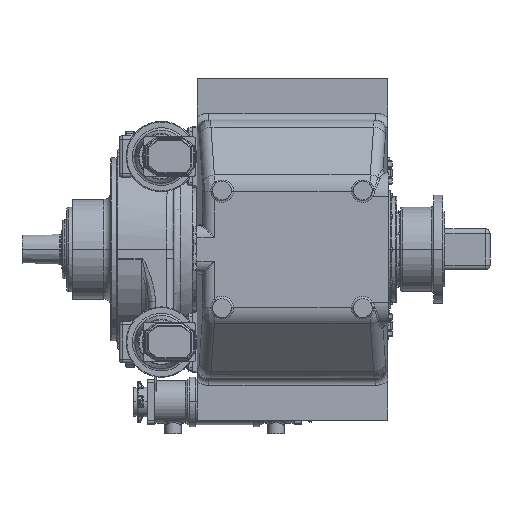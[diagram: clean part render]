
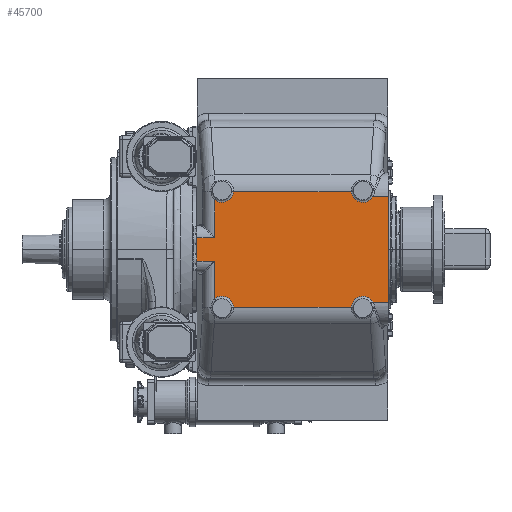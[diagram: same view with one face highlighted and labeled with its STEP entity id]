
A CAD part, front view. The second image highlights one B-rep face of the part: STEP entity #45700.
In plain terms, the highlighted planar face has unit normal (0, -1, 0).
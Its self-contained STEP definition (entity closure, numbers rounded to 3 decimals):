
#41669=CARTESIAN_POINT('',(-415.381,-637.5,50.));
#41691=CARTESIAN_POINT('',(-415.381,-637.5,
211.076));
#41693=DIRECTION('',(0.,0.,-1.));
#41694=VECTOR('',#41693,161.076);
#41695=CARTESIAN_POINT('',(-415.381,-637.5,
211.076));
#41696=LINE('',#41695,#41694);
#41709=CARTESIAN_POINT('',(-415.381,-637.5,
-211.076));
#41722=CARTESIAN_POINT('',(-415.381,-637.5,-50.));
#41734=DIRECTION('',(0.,0.,-1.));
#41735=VECTOR('',#41734,161.076);
#41736=CARTESIAN_POINT('',(-415.381,-637.5,-50.));
#41737=LINE('',#41736,#41735);
#41887=CARTESIAN_POINT('',(259.304,-637.5,
225.));
#41948=CARTESIAN_POINT('',(216.003,-637.5,250.));
#41949=DIRECTION('',(0.,1.,0.));
#41950=DIRECTION('',(0.866,0.,-0.5));
#41951=AXIS2_PLACEMENT_3D('',#41948,#41949,#41950);
#41963=DIRECTION('',(-1.,0.,0.));
#41964=VECTOR('',#41963,64.779);
#41965=CARTESIAN_POINT('',(324.083,-637.5,225.));
#41966=LINE('',#41965,#41964);
#41967=DIRECTION('',(-1.,0.,0.));
#41968=VECTOR('',#41967,500.308);
#41969=CARTESIAN_POINT('',(166.157,-637.5,
-246.078));
#41970=LINE('',#41969,#41968);
#41971=DIRECTION('',(1.,0.,0.));
#41972=VECTOR('',#41971,76.116);
#41973=CARTESIAN_POINT('',(-491.497,-637.5,-50.));
#41974=LINE('',#41973,#41972);
#41975=DIRECTION('',(1.,0.,0.));
#41976=VECTOR('',#41975,76.116);
#41977=CARTESIAN_POINT('',(-491.497,-637.5,50.));
#41978=LINE('',#41977,#41976);
#41979=DIRECTION('',(-1.,0.,0.));
#41980=VECTOR('',#41979,500.308);
#41981=CARTESIAN_POINT('',(166.157,-637.5,
246.078));
#41982=LINE('',#41981,#41980);
#41988=DIRECTION('',(0.,0.,-1.));
#41989=VECTOR('',#41988,450.);
#41990=CARTESIAN_POINT('',(324.083,-637.5,225.));
#41991=LINE('',#41990,#41989);
#42006=CARTESIAN_POINT('',(259.304,-637.5,
-225.));
#42008=DIRECTION('',(-1.,0.,0.));
#42009=VECTOR('',#42008,64.779);
#42010=CARTESIAN_POINT('',(324.083,-637.5,-225.));
#42011=LINE('',#42010,#42009);
#42107=CARTESIAN_POINT('',(166.157,-637.5,
-246.078));
#42161=CARTESIAN_POINT('',(-334.152,-637.5,
-246.078));
#42168=CARTESIAN_POINT('',(216.003,-637.5,-250.));
#42169=DIRECTION('',(0.,1.,0.));
#42170=DIRECTION('',(-0.997,0.,0.078));
#42171=AXIS2_PLACEMENT_3D('',#42168,#42169,#42170);
#42252=CARTESIAN_POINT('',(166.157,-637.5,
246.078));
#42254=CARTESIAN_POINT('',(-334.152,-637.5,
246.078));
#42355=CARTESIAN_POINT('',(-383.997,-637.5,250.));
#42356=DIRECTION('',(0.,1.,0.));
#42357=DIRECTION('',(0.997,0.,-0.078));
#42358=AXIS2_PLACEMENT_3D('',#42355,#42356,#42357);
#42497=CARTESIAN_POINT('',(-383.997,-637.5,-250.));
#42498=DIRECTION('',(0.,1.,0.));
#42499=DIRECTION('',(-0.628,0.,0.778));
#42500=AXIS2_PLACEMENT_3D('',#42497,#42498,#42499);
#42766=DIRECTION('',(0.,0.,1.));
#42767=VECTOR('',#42766,100.);
#42768=CARTESIAN_POINT('',(-491.497,-637.5,-50.));
#42769=LINE('',#42768,#42767);
#43947=CARTESIAN_POINT('',(-491.497,-637.5,50.));
#43949=VERTEX_POINT('',#43947);
#43952=CARTESIAN_POINT('',(-491.497,-637.5,-50.));
#43954=VERTEX_POINT('',#43952);
#43955=CARTESIAN_POINT('',(324.083,-637.5,-225.));
#43957=VERTEX_POINT('',#43955);
#43961=CARTESIAN_POINT('',(324.083,-637.5,225.));
#43962=VERTEX_POINT('',#43961);
#43986=VERTEX_POINT('',#41669);
#44008=VERTEX_POINT('',#41722);
#44201=VERTEX_POINT('',#41887);
#44211=VERTEX_POINT('',#42252);
#44217=VERTEX_POINT('',#41691);
#44219=VERTEX_POINT('',#42254);
#44223=VERTEX_POINT('',#42107);
#44233=VERTEX_POINT('',#42006);
#44235=VERTEX_POINT('',#41709);
#44243=VERTEX_POINT('',#42161);
#45670=CARTESIAN_POINT('',(-489.977,-637.5,287.5));
#45671=DIRECTION('',(0.,-1.,0.));
#45672=DIRECTION('',(0.,0.,-1.));
#45673=AXIS2_PLACEMENT_3D('',#45670,#45671,#45672);
#45674=PLANE('',#45673);
#45675=ORIENTED_EDGE('',*,*,#45660,.F.);
#45676=ORIENTED_EDGE('',*,*,#45615,.F.);
#45678=ORIENTED_EDGE('',*,*,#45677,.T.);
#45680=ORIENTED_EDGE('',*,*,#45679,.T.);
#45682=ORIENTED_EDGE('',*,*,#45681,.F.);
#45684=ORIENTED_EDGE('',*,*,#45683,.T.);
#45686=ORIENTED_EDGE('',*,*,#45685,.F.);
#45687=ORIENTED_EDGE('',*,*,#45177,.F.);
#45689=ORIENTED_EDGE('',*,*,#45688,.F.);
#45691=ORIENTED_EDGE('',*,*,#45690,.T.);
#45692=ORIENTED_EDGE('',*,*,#45083,.T.);
#45693=ORIENTED_EDGE('',*,*,#45156,.F.);
#45695=ORIENTED_EDGE('',*,*,#45694,.F.);
#45697=ORIENTED_EDGE('',*,*,#45696,.F.);
#45698=EDGE_LOOP('',(#45675,#45676,#45678,#45680,#45682,#45684,#45686,#45687,
#45689,#45691,#45692,#45693,#45695,#45697));
#45699=FACE_OUTER_BOUND('',#45698,.F.);
#45700=ADVANCED_FACE('',(#45699),#45674,.T.);
#41952=CIRCLE('',#41951,50.);
#42172=CIRCLE('',#42171,50.);
#42359=CIRCLE('',#42358,50.);
#42501=CIRCLE('',#42500,50.);
#45083=EDGE_CURVE('',#43949,#43986,#41978,.T.);
#45156=EDGE_CURVE('',#44217,#43986,#41696,.T.);
#45177=EDGE_CURVE('',#44008,#44235,#41737,.T.);
#45615=EDGE_CURVE('',#43962,#44201,#41966,.T.);
#45660=EDGE_CURVE('',#44201,#44211,#41952,.T.);
#45677=EDGE_CURVE('',#43962,#43957,#41991,.T.);
#45679=EDGE_CURVE('',#43957,#44233,#42011,.T.);
#45681=EDGE_CURVE('',#44223,#44233,#42172,.T.);
#45683=EDGE_CURVE('',#44223,#44243,#41970,.T.);
#45685=EDGE_CURVE('',#44235,#44243,#42501,.T.);
#45688=EDGE_CURVE('',#43954,#44008,#41974,.T.);
#45690=EDGE_CURVE('',#43954,#43949,#42769,.T.);
#45694=EDGE_CURVE('',#44219,#44217,#42359,.T.);
#45696=EDGE_CURVE('',#44211,#44219,#41982,.T.);
